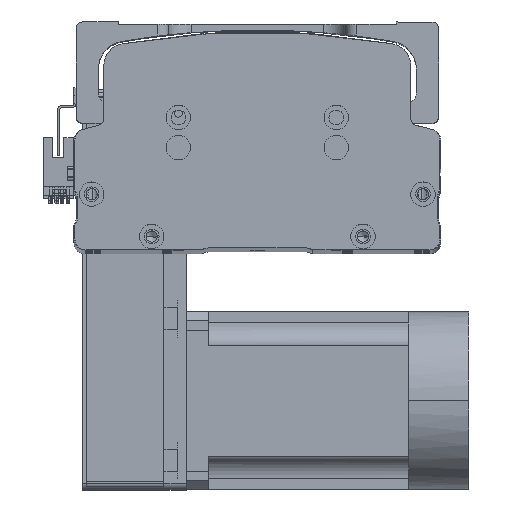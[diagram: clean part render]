
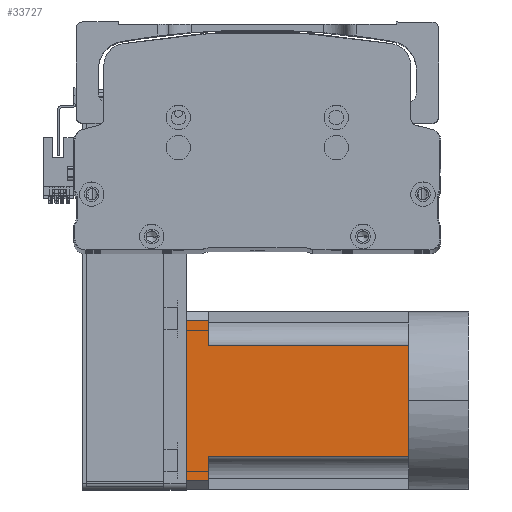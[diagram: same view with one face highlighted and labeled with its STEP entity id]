
A CAD part, top view. The second image highlights one B-rep face of the part: STEP entity #33727.
In plain terms, the highlighted planar face has unit normal (0, 0, 1) as drawn and (0, 0, -1) by its records, which use the part's own axes.
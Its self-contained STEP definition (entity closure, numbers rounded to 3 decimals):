
#119 = VECTOR ( 'NONE', #60163, 1000. ) ;
#1927 = LINE ( 'NONE', #12014, #51303 ) ;
#2257 = EDGE_CURVE ( 'NONE', #13533, #46789, #11683, .T. ) ;
#2307 = ORIENTED_EDGE ( 'NONE', *, *, #34123, .T. ) ;
#5066 = CARTESIAN_POINT ( 'NONE',  ( -40., -27., -40. ) ) ;
#5971 = LINE ( 'NONE', #42923, #29125 ) ;
#6166 = CARTESIAN_POINT ( 'NONE',  ( 25., 90., -40. ) ) ;
#7222 = DIRECTION ( 'NONE',  ( 0., 1., 0. ) ) ;
#7417 = VERTEX_POINT ( 'NONE', #34124 ) ;
#8056 = VERTEX_POINT ( 'NONE', #45867 ) ;
#8057 = DIRECTION ( 'NONE',  ( -1., 0., 0. ) ) ;
#10015 = DIRECTION ( 'NONE',  ( -1., 0., 0. ) ) ;
#11070 = VERTEX_POINT ( 'NONE', #50374 ) ;
#11683 = LINE ( 'NONE', #55206, #119 ) ;
#12014 = CARTESIAN_POINT ( 'NONE',  ( 36., -27., -40. ) ) ;
#12283 = CARTESIAN_POINT ( 'NONE',  ( 0., 0., -40. ) ) ;
#13193 = DIRECTION ( 'NONE',  ( -1., 0., 0. ) ) ;
#13277 = EDGE_LOOP ( 'NONE', ( #16982, #42630, #18643, #37506, #63877, #56928, #28104, #2307, #54194 ) ) ;
#13533 = VERTEX_POINT ( 'NONE', #39847 ) ;
#14356 = EDGE_CURVE ( 'NONE', #11070, #7417, #40105, .T. ) ;
#16982 = ORIENTED_EDGE ( 'NONE', *, *, #32965, .F. ) ;
#17134 = VECTOR ( 'NONE', #45654, 1000. ) ;
#18173 = DIRECTION ( 'NONE',  ( -1., 0., 0. ) ) ;
#18643 = ORIENTED_EDGE ( 'NONE', *, *, #2257, .T. ) ;
#18664 = LINE ( 'NONE', #40704, #17134 ) ;
#19746 = PLANE ( 'NONE',  #31278 ) ;
#23950 = VECTOR ( 'NONE', #7222, 1000. ) ;
#24274 = VERTEX_POINT ( 'NONE', #31995 ) ;
#24373 = VECTOR ( 'NONE', #8057, 1000. ) ;
#28104 = ORIENTED_EDGE ( 'NONE', *, *, #14356, .T. ) ;
#29125 = VECTOR ( 'NONE', #18173, 1000. ) ;
#31278 = AXIS2_PLACEMENT_3D ( 'NONE', #5066, #39553, #10015 ) ;
#31995 = CARTESIAN_POINT ( 'NONE',  ( 25., 0., -40. ) ) ;
#32794 = VECTOR ( 'NONE', #13193, 1000. ) ;
#32965 = EDGE_CURVE ( 'NONE', #45395, #8056, #5971, .T. ) ;
#33727 = ADVANCED_FACE ( 'NONE', ( #42861 ), #19746, .T. ) ;
#34123 = EDGE_CURVE ( 'NONE', #7417, #41817, #45916, .T. ) ;
#34124 = CARTESIAN_POINT ( 'NONE',  ( -25., 90., -40. ) ) ;
#36546 = EDGE_CURVE ( 'NONE', #41817, #8056, #18664, .T. ) ;
#37506 = ORIENTED_EDGE ( 'NONE', *, *, #59437, .T. ) ;
#37601 = CARTESIAN_POINT ( 'NONE',  ( -40., 0., -40. ) ) ;
#38627 = CARTESIAN_POINT ( 'NONE',  ( 36., 100., -40. ) ) ;
#39553 = DIRECTION ( 'NONE',  ( 0., 0., -1. ) ) ;
#39847 = CARTESIAN_POINT ( 'NONE',  ( 36., 90., -40. ) ) ;
#40105 = LINE ( 'NONE', #61334, #23950 ) ;
#40341 = EDGE_CURVE ( 'NONE', #24274, #55202, #46987, .T. ) ;
#40704 = CARTESIAN_POINT ( 'NONE',  ( -36., -27., -40. ) ) ;
#41817 = VERTEX_POINT ( 'NONE', #45077 ) ;
#41978 = DIRECTION ( 'NONE',  ( -1., 0., 0. ) ) ;
#42630 = ORIENTED_EDGE ( 'NONE', *, *, #63153, .T. ) ;
#42861 = FACE_OUTER_BOUND ( 'NONE', #13277, .T. ) ;
#42923 = CARTESIAN_POINT ( 'NONE',  ( -40., 100., -40. ) ) ;
#44734 = EDGE_CURVE ( 'NONE', #55202, #11070, #62140, .T. ) ;
#45077 = CARTESIAN_POINT ( 'NONE',  ( -36., 90., -40. ) ) ;
#45395 = VERTEX_POINT ( 'NONE', #38627 ) ;
#45449 = VECTOR ( 'NONE', #41978, 1000. ) ;
#45654 = DIRECTION ( 'NONE',  ( 0., 1., 0. ) ) ;
#45867 = CARTESIAN_POINT ( 'NONE',  ( -36., 100., -40. ) ) ;
#45916 = LINE ( 'NONE', #57402, #32794 ) ;
#46789 = VERTEX_POINT ( 'NONE', #6166 ) ;
#46937 = CARTESIAN_POINT ( 'NONE',  ( -40., 0., -40. ) ) ;
#46987 = LINE ( 'NONE', #46937, #45449 ) ;
#50374 = CARTESIAN_POINT ( 'NONE',  ( -25., 0., -40. ) ) ;
#51303 = VECTOR ( 'NONE', #56484, 1000. ) ;
#53494 = CARTESIAN_POINT ( 'NONE',  ( 25., -27., -40. ) ) ;
#54194 = ORIENTED_EDGE ( 'NONE', *, *, #36546, .T. ) ;
#55202 = VERTEX_POINT ( 'NONE', #12283 ) ;
#55206 = CARTESIAN_POINT ( 'NONE',  ( -40., 90., -40. ) ) ;
#55799 = VECTOR ( 'NONE', #58473, 1000. ) ;
#56484 = DIRECTION ( 'NONE',  ( 0., -1., 0. ) ) ;
#56928 = ORIENTED_EDGE ( 'NONE', *, *, #44734, .T. ) ;
#57402 = CARTESIAN_POINT ( 'NONE',  ( -40., 90., -40. ) ) ;
#58473 = DIRECTION ( 'NONE',  ( 0., -1., 0. ) ) ;
#58890 = LINE ( 'NONE', #53494, #55799 ) ;
#59437 = EDGE_CURVE ( 'NONE', #46789, #24274, #58890, .T. ) ;
#60163 = DIRECTION ( 'NONE',  ( -1., 0., 0. ) ) ;
#61334 = CARTESIAN_POINT ( 'NONE',  ( -25., -27., -40. ) ) ;
#62140 = LINE ( 'NONE', #37601, #24373 ) ;
#63153 = EDGE_CURVE ( 'NONE', #45395, #13533, #1927, .T. ) ;
#63877 = ORIENTED_EDGE ( 'NONE', *, *, #40341, .T. ) ;
